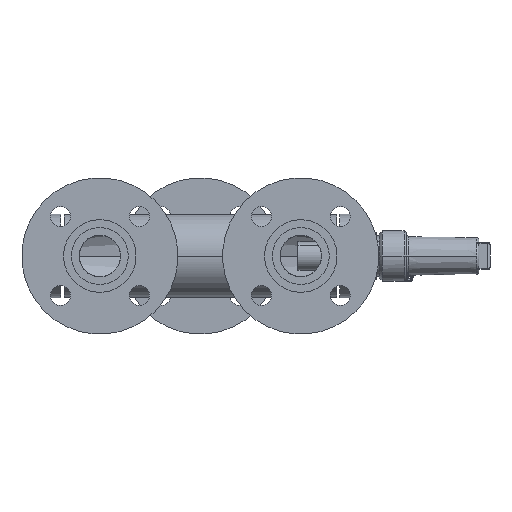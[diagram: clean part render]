
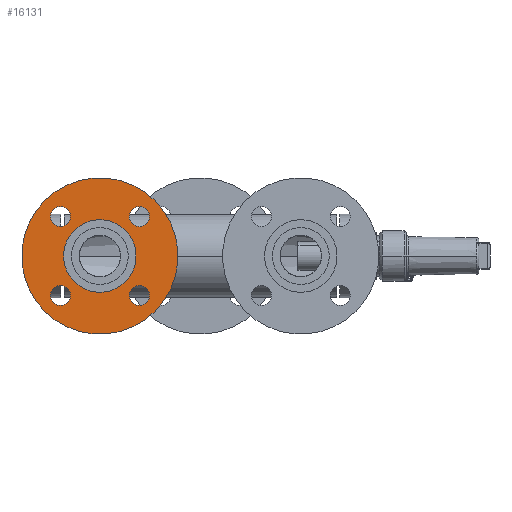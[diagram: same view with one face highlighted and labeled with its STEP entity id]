
A CAD part, left-side view. The second image highlights one B-rep face of the part: STEP entity #16131.
In plain terms, the highlighted planar face has unit normal (-1, 0, 0) as drawn and (0, -1, 0) by its records, which use the part's own axes.
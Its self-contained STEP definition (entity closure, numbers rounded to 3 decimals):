
#1184 = VERTEX_POINT ( 'NONE', #25039 ) ;
#17681 = VERTEX_POINT ( 'NONE', #9775 ) ;
#1402 = EDGE_CURVE ( 'NONE', #17681, #17913, #25401, .T. ) ;
#17913 = VERTEX_POINT ( 'NONE', #9922 ) ;
#1614 = VERTEX_POINT ( 'NONE', #25479 ) ;
#18150 = EDGE_CURVE ( 'NONE', #17913, #17681, #10282, .T. ) ;
#18565 = VERTEX_POINT ( 'NONE', #10739 ) ;
#18820 = VERTEX_POINT ( 'NONE', #11375 ) ;
#18840 = EDGE_LOOP ( 'NONE', ( #13194, #12258 ) ) ;
#18954 = EDGE_CURVE ( 'NONE', #1184, #1614, #11445, .T. ) ;
#19013 = EDGE_CURVE ( 'NONE', #18820, #21560, #11483, .T. ) ;
#19091 = ORIENTED_EDGE ( 'NONE', *, *, #23035, .T. ) ;
#19316 = VERTEX_POINT ( 'NONE', #11929 ) ;
#19545 = VERTEX_POINT ( 'NONE', #5311 ) ;
#19621 = ORIENTED_EDGE ( 'NONE', *, *, #13871, .T. ) ;
#19775 = EDGE_CURVE ( 'NONE', #19545, #19316, #5600, .T. ) ;
#3500 = CIRCLE ( 'NONE', #3501, 9. ) ;
#3501 = AXIS2_PLACEMENT_3D ( 'NONE', #3502, #3503, #3504 ) ;
#3502 = CARTESIAN_POINT ( 'NONE',  ( -50., 4., 0. ) ) ;
#3503 = DIRECTION ( 'NONE',  ( 0., 1., 0. ) ) ;
#3504 = DIRECTION ( 'NONE',  ( 1., 0., 0. ) ) ;
#20321 = EDGE_LOOP ( 'NONE', ( #19621, #19091 ) ) ;
#20573 = EDGE_CURVE ( 'NONE', #21560, #18820, #14991, .T. ) ;
#20955 = ORIENTED_EDGE ( 'NONE', *, *, #20573, .F. ) ;
#21495 = ORIENTED_EDGE ( 'NONE', *, *, #19013, .F. ) ;
#21560 = VERTEX_POINT ( 'NONE', #21923 ) ;
#5311 = CARTESIAN_POINT ( 'NONE',  ( 9., 4., 50. ) ) ;
#21923 = CARTESIAN_POINT ( 'NONE',  ( -32.5, 4., 0. ) ) ;
#5582 = FACE_BOUND ( 'NONE', #15878, .T. ) ;
#5583 = FACE_BOUND ( 'NONE', #14671, .T. ) ;
#5584 = FACE_BOUND ( 'NONE', #22038, .T. ) ;
#5585 = FACE_BOUND ( 'NONE', #20321, .T. ) ;
#5586 = FACE_BOUND ( 'NONE', #18840, .T. ) ;
#5587 = FACE_OUTER_BOUND ( 'NONE', #11804, .T. ) ;
#5588 = PLANE ( 'NONE',  #5608 ) ;
#5600 = CIRCLE ( 'NONE', #5601, 9. ) ;
#5601 = AXIS2_PLACEMENT_3D ( 'NONE', #5602, #5603, #5604 ) ;
#5602 = CARTESIAN_POINT ( 'NONE',  ( 0., 4., 50. ) ) ;
#5603 = DIRECTION ( 'NONE',  ( 0., 1., 0. ) ) ;
#5604 = DIRECTION ( 'NONE',  ( 1., 0., 0. ) ) ;
#5608 = AXIS2_PLACEMENT_3D ( 'NONE', #5609, #5610, #5611 ) ;
#5609 = CARTESIAN_POINT ( 'NONE',  ( 0., 4., 0. ) ) ;
#5610 = DIRECTION ( 'NONE',  ( 0., -1., 0. ) ) ;
#5611 = DIRECTION ( 'NONE',  ( 1., 0., 0. ) ) ;
#22038 = EDGE_LOOP ( 'NONE', ( #21495, #20955 ) ) ;
#22296 = ORIENTED_EDGE ( 'NONE', *, *, #15570, .T. ) ;
#22709 = EDGE_CURVE ( 'NONE', #19316, #19545, #24101, .T. ) ;
#22807 = VERTEX_POINT ( 'NONE', #24307 ) ;
#22848 = ORIENTED_EDGE ( 'NONE', *, *, #18954, .T. ) ;
#23035 = EDGE_CURVE ( 'NONE', #22807, #14517, #24737, .T. ) ;
#24101 = CIRCLE ( 'NONE', #24102, 9. ) ;
#24102 = AXIS2_PLACEMENT_3D ( 'NONE', #24103, #24104, #24105 ) ;
#24103 = CARTESIAN_POINT ( 'NONE',  ( 0., 4., 50. ) ) ;
#24104 = DIRECTION ( 'NONE',  ( 0., 1., 0. ) ) ;
#24105 = DIRECTION ( 'NONE',  ( 1., 0., 0. ) ) ;
#24307 = CARTESIAN_POINT ( 'NONE',  ( 9., 4., -50. ) ) ;
#24324 = VERTEX_POINT ( 'NONE', #26714 ) ;
#24505 = EDGE_CURVE ( 'NONE', #18565, #24324, #26925, .T. ) ;
#24737 = CIRCLE ( 'NONE', #24738, 9. ) ;
#24738 = AXIS2_PLACEMENT_3D ( 'NONE', #24739, #24740, #24741 ) ;
#24739 = CARTESIAN_POINT ( 'NONE',  ( 0., 4., -50. ) ) ;
#24740 = DIRECTION ( 'NONE',  ( 0., 1., 0. ) ) ;
#24741 = DIRECTION ( 'NONE',  ( 1., 0., 0. ) ) ;
#24747 = EDGE_CURVE ( 'NONE', #24324, #18565, #27237, .T. ) ;
#25039 = CARTESIAN_POINT ( 'NONE',  ( -59., 4., 0. ) ) ;
#9004 = ORIENTED_EDGE ( 'NONE', *, *, #18150, .T. ) ;
#25401 = CIRCLE ( 'NONE', #25402, 70. ) ;
#25402 = AXIS2_PLACEMENT_3D ( 'NONE', #25403, #25404, #25405 ) ;
#25403 = CARTESIAN_POINT ( 'NONE',  ( 0., 4., 0. ) ) ;
#25404 = DIRECTION ( 'NONE',  ( 0., -1., 0. ) ) ;
#25405 = DIRECTION ( 'NONE',  ( 1., 0., 0. ) ) ;
#25479 = CARTESIAN_POINT ( 'NONE',  ( -41., 4., 0. ) ) ;
#9775 = CARTESIAN_POINT ( 'NONE',  ( -70., 4., 0. ) ) ;
#9922 = CARTESIAN_POINT ( 'NONE',  ( 70., 4., 0. ) ) ;
#9928 = ORIENTED_EDGE ( 'NONE', *, *, #1402, .T. ) ;
#10282 = CIRCLE ( 'NONE', #10283, 70. ) ;
#10283 = AXIS2_PLACEMENT_3D ( 'NONE', #10284, #10285, #10304 ) ;
#10284 = CARTESIAN_POINT ( 'NONE',  ( 0., 4., 0. ) ) ;
#10285 = DIRECTION ( 'NONE',  ( 0., -1., 0. ) ) ;
#10304 = DIRECTION ( 'NONE',  ( 1., 0., 0. ) ) ;
#26709 = CIRCLE ( 'NONE', #26710, 9. ) ;
#26710 = AXIS2_PLACEMENT_3D ( 'NONE', #26711, #26712, #26713 ) ;
#26711 = CARTESIAN_POINT ( 'NONE',  ( 0., 4., -50. ) ) ;
#26712 = DIRECTION ( 'NONE',  ( 0., 1., 0. ) ) ;
#26713 = DIRECTION ( 'NONE',  ( 1., 0., 0. ) ) ;
#26714 = CARTESIAN_POINT ( 'NONE',  ( 59., 4., 0. ) ) ;
#26925 = CIRCLE ( 'NONE', #26926, 9. ) ;
#26926 = AXIS2_PLACEMENT_3D ( 'NONE', #26927, #26928, #26929 ) ;
#26927 = CARTESIAN_POINT ( 'NONE',  ( 50., 4., 0. ) ) ;
#26928 = DIRECTION ( 'NONE',  ( 0., 1., 0. ) ) ;
#26929 = DIRECTION ( 'NONE',  ( 1., 0., 0. ) ) ;
#10739 = CARTESIAN_POINT ( 'NONE',  ( 41., 4., 0. ) ) ;
#27237 = CIRCLE ( 'NONE', #27238, 9. ) ;
#27238 = AXIS2_PLACEMENT_3D ( 'NONE', #27239, #27261, #27262 ) ;
#27239 = CARTESIAN_POINT ( 'NONE',  ( 50., 4., 0. ) ) ;
#27261 = DIRECTION ( 'NONE',  ( 0., 1., 0. ) ) ;
#27262 = DIRECTION ( 'NONE',  ( 1., 0., 0. ) ) ;
#11375 = CARTESIAN_POINT ( 'NONE',  ( 32.5, 4., 0. ) ) ;
#11445 = CIRCLE ( 'NONE', #11469, 9. ) ;
#11469 = AXIS2_PLACEMENT_3D ( 'NONE', #11470, #11471, #11472 ) ;
#11470 = CARTESIAN_POINT ( 'NONE',  ( -50., 4., 0. ) ) ;
#11471 = DIRECTION ( 'NONE',  ( 0., 1., 0. ) ) ;
#11472 = DIRECTION ( 'NONE',  ( 1., 0., 0. ) ) ;
#11483 = CIRCLE ( 'NONE', #11484, 32.5 ) ;
#11484 = AXIS2_PLACEMENT_3D ( 'NONE', #11505, #11506, #11507 ) ;
#11505 = CARTESIAN_POINT ( 'NONE',  ( 0., 4., 0. ) ) ;
#11506 = DIRECTION ( 'NONE',  ( 0., -1., 0. ) ) ;
#11507 = DIRECTION ( 'NONE',  ( 1., 0., 0. ) ) ;
#28053 = CARTESIAN_POINT ( 'NONE',  ( -9., 4., -50. ) ) ;
#11804 = EDGE_LOOP ( 'NONE', ( #9928, #9004 ) ) ;
#11929 = CARTESIAN_POINT ( 'NONE',  ( -9., 4., 50. ) ) ;
#12258 = ORIENTED_EDGE ( 'NONE', *, *, #19775, .T. ) ;
#13194 = ORIENTED_EDGE ( 'NONE', *, *, #22709, .T. ) ;
#13871 = EDGE_CURVE ( 'NONE', #14517, #22807, #26709, .T. ) ;
#14517 = VERTEX_POINT ( 'NONE', #28053 ) ;
#14671 = EDGE_LOOP ( 'NONE', ( #22848, #22296 ) ) ;
#14810 = ORIENTED_EDGE ( 'NONE', *, *, #24747, .T. ) ;
#14991 = CIRCLE ( 'NONE', #14992, 32.5 ) ;
#14992 = AXIS2_PLACEMENT_3D ( 'NONE', #14995, #14996, #14997 ) ;
#14995 = CARTESIAN_POINT ( 'NONE',  ( 0., 4., 0. ) ) ;
#14996 = DIRECTION ( 'NONE',  ( 0., -1., 0. ) ) ;
#14997 = DIRECTION ( 'NONE',  ( 1., 0., 0. ) ) ;
#15348 = ORIENTED_EDGE ( 'NONE', *, *, #24505, .T. ) ;
#15570 = EDGE_CURVE ( 'NONE', #1614, #1184, #3500, .T. ) ;
#15878 = EDGE_LOOP ( 'NONE', ( #15348, #14810 ) ) ;
#16131 = ADVANCED_FACE ( 'NONE', ( #5582, #5583, #5584, #5585, #5586, #5587 ), #5588, .T. ) ;
